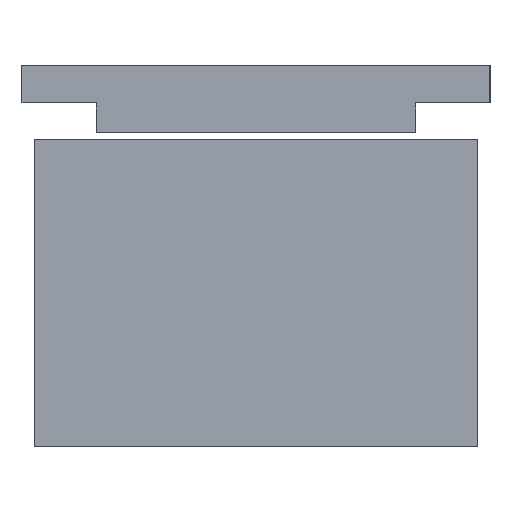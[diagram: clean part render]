
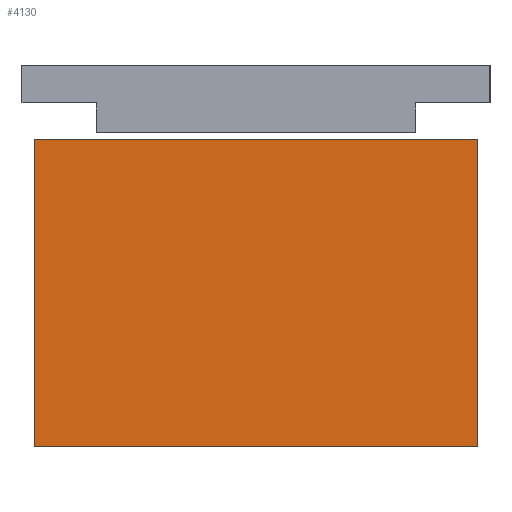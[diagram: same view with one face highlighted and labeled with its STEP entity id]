
A CAD part, left-side view. The second image highlights one B-rep face of the part: STEP entity #4130.
In plain terms, the highlighted planar face has unit normal (-1, 0, 0).
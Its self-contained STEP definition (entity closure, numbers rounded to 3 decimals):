
#166 = VERTEX_POINT ( 'NONE', #902 ) ;
#425 = VERTEX_POINT ( 'NONE', #1163 ) ;
#436 = DIRECTION ( 'NONE',  ( 0., 0., -1. ) ) ;
#560 = VERTEX_POINT ( 'NONE', #1023 ) ;
#623 = DIRECTION ( 'NONE',  ( 0., 0., -1. ) ) ;
#862 = ORIENTED_EDGE ( 'NONE', *, *, #1304, .T. ) ;
#902 = CARTESIAN_POINT ( 'NONE',  ( -98., 35.5, 49.3 ) ) ;
#1023 = CARTESIAN_POINT ( 'NONE',  ( -98., -35.5, 0. ) ) ;
#1031 = ORIENTED_EDGE ( 'NONE', *, *, #2750, .F. ) ;
#1163 = CARTESIAN_POINT ( 'NONE',  ( -98., 35.5, 0. ) ) ;
#1304 = EDGE_CURVE ( 'NONE', #425, #560, #1926, .T. ) ;
#1315 = EDGE_CURVE ( 'NONE', #166, #425, #4107, .T. ) ;
#1333 = CARTESIAN_POINT ( 'NONE',  ( -98., -35.5, 49.3 ) ) ;
#1353 = DIRECTION ( 'NONE',  ( 0., -1., 0. ) ) ;
#1538 = CARTESIAN_POINT ( 'NONE',  ( -98., -35.5, 49.3 ) ) ;
#1714 = CARTESIAN_POINT ( 'NONE',  ( -98., -35.5, 49.3 ) ) ;
#1729 = DIRECTION ( 'NONE',  ( 0., 0., -1. ) ) ;
#1744 = CARTESIAN_POINT ( 'NONE',  ( -98., -35.5, 0. ) ) ;
#1825 = CARTESIAN_POINT ( 'NONE',  ( -98., 35.5, 49.3 ) ) ;
#1926 = LINE ( 'NONE', #1744, #2509 ) ;
#2081 = CARTESIAN_POINT ( 'NONE',  ( -98., -35.5, 49.3 ) ) ;
#2233 = AXIS2_PLACEMENT_3D ( 'NONE', #1333, #2681, #623 ) ;
#2310 = VECTOR ( 'NONE', #436, 1000. ) ;
#2349 = LINE ( 'NONE', #1714, #3962 ) ;
#2509 = VECTOR ( 'NONE', #1353, 1000. ) ;
#2681 = DIRECTION ( 'NONE',  ( 1., 0., 0. ) ) ;
#2708 = FACE_OUTER_BOUND ( 'NONE', #3290, .T. ) ;
#2750 = EDGE_CURVE ( 'NONE', #166, #3604, #3626, .T. ) ;
#2779 = EDGE_CURVE ( 'NONE', #3604, #560, #2349, .T. ) ;
#3140 = ORIENTED_EDGE ( 'NONE', *, *, #2779, .F. ) ;
#3248 = VECTOR ( 'NONE', #3762, 1000. ) ;
#3290 = EDGE_LOOP ( 'NONE', ( #862, #3140, #1031, #3551 ) ) ;
#3551 = ORIENTED_EDGE ( 'NONE', *, *, #1315, .T. ) ;
#3604 = VERTEX_POINT ( 'NONE', #1538 ) ;
#3626 = LINE ( 'NONE', #2081, #3248 ) ;
#3762 = DIRECTION ( 'NONE',  ( 0., -1., 0. ) ) ;
#3962 = VECTOR ( 'NONE', #1729, 1000. ) ;
#4107 = LINE ( 'NONE', #1825, #2310 ) ;
#4130 = ADVANCED_FACE ( 'NONE', ( #2708 ), #4382, .F. ) ;
#4382 = PLANE ( 'NONE',  #2233 ) ;
